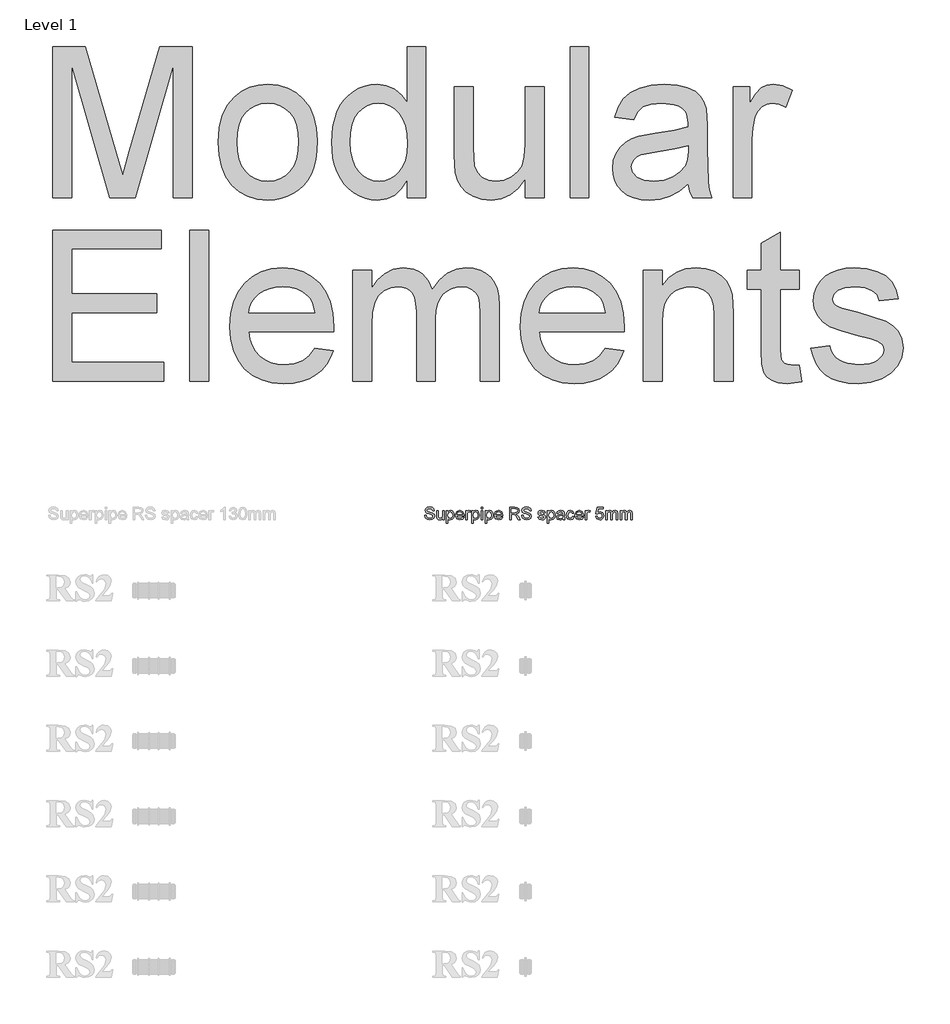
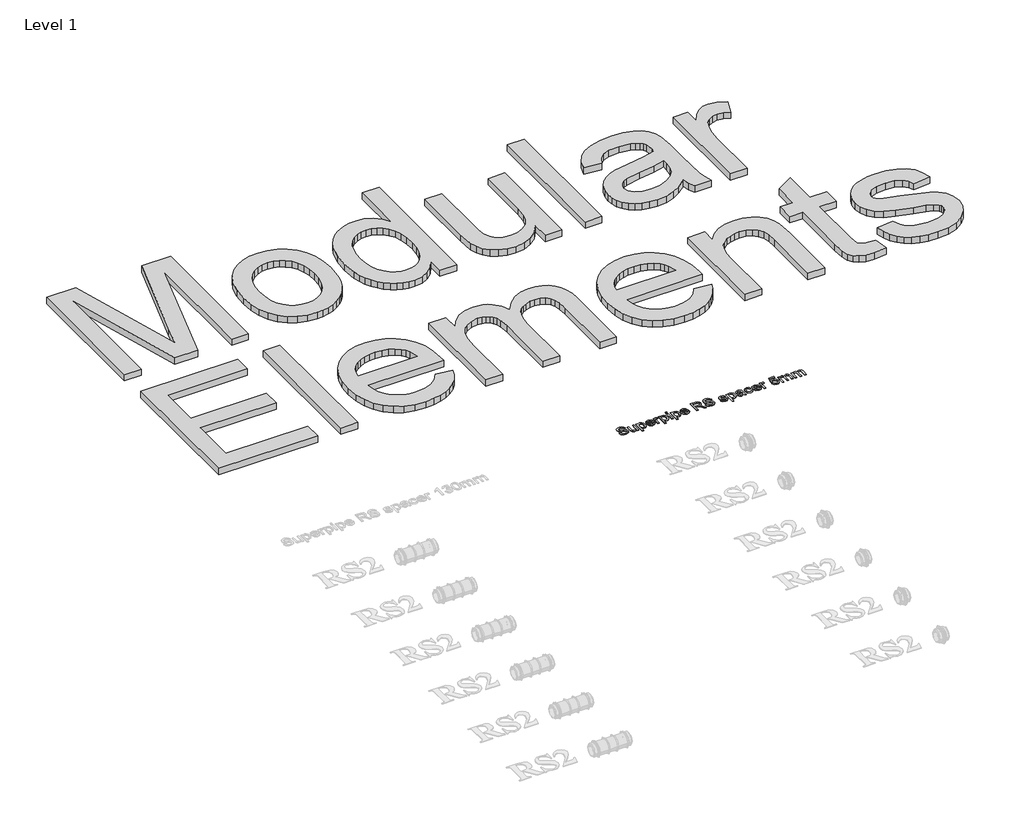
# One storey, part 52 of 57: 2 proxies.
"""IFC4 building model written with IfcOpenShell, lengths in millimetres."""

import ifcopenshell
import ifcopenshell.guid

model = None  # the IFC model being written
_history = None  # IfcOwnerHistory: only IFC2X3 demands one
_inside = {}  # id of a spatial element -> (the spatial element, [elements in it])
_under = {}  # id of a project, library or spatial element -> (it, [spatial elements below it])
_declared = {}  # id of a project -> (the project, [libraries it declares])
_typed = {}  # id of a type object -> (the type object, [elements of that type])
_made_of = {}  # id of a material, layer set ... -> (it, [elements and type objects made of it])


def new_model(schema):
    """Start an empty IFC model of exactly this schema.

    Asked for "IFC4X3", IfcOpenShell would pick the latest addendum, in which some entities
    have other attributes; the version numbers below select the first issue.
    IFC2X3 requires an IfcOwnerHistory on every rooted entity: one is made here for all.
    """
    global model, _history
    if schema == "IFC4X3":
        model = ifcopenshell.file(schema_version=(4, 3, 0, 0))
    else:
        model = ifcopenshell.file(schema=schema)
    _inside.clear()
    _under.clear()
    _declared.clear()
    _typed.clear()
    _made_of.clear()
    _history = None
    if model.schema == "IFC2X3":
        org = make("IfcOrganization", Name="unknown")
        user = make(
            "IfcPersonAndOrganization",
            ThePerson=make("IfcPerson", FamilyName="unknown"),
            TheOrganization=org,
        )
        app = make(
            "IfcApplication",
            ApplicationDeveloper=org,
            Version="unknown",
            ApplicationFullName="unknown",
            ApplicationIdentifier="unknown",
        )
        _history = make(
            "IfcOwnerHistory",
            OwningUser=user,
            OwningApplication=app,
            ChangeAction="ADDED",
            CreationDate=0,
        )
    return model


def make(cls, **values):
    """One entity of the class cls with the attributes given. An attribute that is None is left unset."""
    return model.create_entity(
        cls, **{name: value for name, value in values.items() if value is not None}
    )


def rooted(cls, **values):
    """An entity with a GlobalId (a new one), such as an element, a storey or a relation."""
    return make(cls, GlobalId=ifcopenshell.guid.new(), OwnerHistory=_history, **values)


def si_unit(unit_type, name, prefix=None):
    """IfcSIUnit, for example si_unit("LENGTHUNIT", "METRE", prefix="MILLI")."""
    return make("IfcSIUnit", UnitType=unit_type, Prefix=prefix, Name=name)


def assignment(units):
    """IfcUnitAssignment: the units of a project."""
    return None if units is None else make("IfcUnitAssignment", Units=units)


def point(xyz):
    """IfcCartesianPoint."""
    return None if xyz is None else make("IfcCartesianPoint", Coordinates=xyz)


def direction(xyz):
    """IfcDirection."""
    return None if xyz is None else make("IfcDirection", DirectionRatios=xyz)


def frame(location, z_axis=None, x_axis=None):
    """IfcAxis2Placement3D, a coordinate frame: its origin and axes. An axis left out is left unset."""
    return make(
        "IfcAxis2Placement3D",
        Location=point(location),
        Axis=direction(z_axis),
        RefDirection=direction(x_axis),
    )


def origin():
    """The frame at (0, 0, 0) with its axes left unset."""
    return frame((0.0, 0.0, 0.0))


def place(relative_to, where):
    """IfcLocalPlacement: puts the frame where relative to a parent placement (None: the world)."""
    return make(
        "IfcLocalPlacement", PlacementRelTo=relative_to, RelativePlacement=where
    )


def context(
    kind, dimensions, precision=None, world=None, true_north=None, identifier=None
):
    """IfcGeometricRepresentationContext, for example the 3D "Model" context."""
    return make(
        "IfcGeometricRepresentationContext",
        ContextIdentifier=identifier,
        ContextType=kind,
        CoordinateSpaceDimension=dimensions,
        Precision=precision,
        WorldCoordinateSystem=world,
        TrueNorth=true_north,
    )


def project(units=None, contexts=None):
    """IfcProject with its units and contexts."""
    return rooted(
        "IfcProject",
        Name="project",
        RepresentationContexts=contexts,
        UnitsInContext=assignment(units),
    )


def spatial(cls, under=None, at=None, **own):
    """A site, building, storey or space (cls), placed at a placement, below another one or the project."""
    s = rooted(cls, ObjectPlacement=at, **own)
    if under is not None:
        _under.setdefault(under.id(), (under, []))[1].append(s)
    return s


def polyline(points):
    """IfcPolyline through the points."""
    return make("IfcPolyline", Points=[point(p) for p in points])


def outline(outer, holes=None, kind="AREA"):
    """IfcArbitraryClosedProfileDef: a profile drawn as a closed curve; with holes, ...WithVoids."""
    if holes is None:
        return make("IfcArbitraryClosedProfileDef", ProfileType=kind, OuterCurve=outer)
    return make(
        "IfcArbitraryProfileDefWithVoids",
        ProfileType=kind,
        OuterCurve=outer,
        InnerCurves=holes,
    )


def extrude(swept, where, along, depth):
    """IfcExtrudedAreaSolid: the profile swept, set in the frame where, extruded along a direction by depth."""
    return make(
        "IfcExtrudedAreaSolid",
        SweptArea=swept,
        Position=where,
        ExtrudedDirection=direction(along),
        Depth=depth,
    )


def shape(context_of_items, identifier, shape_type, items):
    """IfcShapeRepresentation: the items that make up one representation, for example the "Body"."""
    return make(
        "IfcShapeRepresentation",
        ContextOfItems=context_of_items,
        RepresentationIdentifier=identifier,
        RepresentationType=shape_type,
        Items=items,
    )


def made_of(thing, what):
    """Note that an element or type object is made of a material, layer set ...; save() writes the relation."""
    if what is not None:
        _made_of.setdefault(what.id(), (what, []))[1].append(thing)
    return thing


def element(
    cls,
    number,
    at=None,
    inside=None,
    cuts=None,
    type_object=None,
    material=None,
    context=None,
    identifier="Body",
    shape_type=None,
    held_by="IfcProductDefinitionShape",
    body=None,
    shapes=None,
    **own,
):
    """One element of the class cls, such as IfcWall. Its Tag is "e" and its number.

    at: its placement. inside: the storey or other place that contains it. cuts: it is an
    opening in that element (IfcRelVoidsElement). A single representation is given by context,
    identifier, shape_type and body (its items); several are given by shapes. held_by: the class
    of the entity that holds the representations. save() writes the other relations.
    """
    e = rooted(cls, Tag="e%d" % number, ObjectPlacement=at, **own)
    if body is not None:
        shapes = [shape(context, identifier, shape_type, body)]
    if shapes is not None:
        e.Representation = make(held_by, Representations=shapes)
    if inside is not None:
        _inside.setdefault(inside.id(), (inside, []))[1].append(e)
    if cuts is not None:
        rooted(
            "IfcRelVoidsElement", RelatingBuildingElement=cuts, RelatedOpeningElement=e
        )
    if type_object is not None:
        _typed.setdefault(type_object.id(), (type_object, []))[1].append(e)
    return made_of(e, material)


def aggregate(whole, parts):
    """IfcRelAggregates: a whole, such as a stair, and the parts it consists of."""
    return rooted("IfcRelAggregates", RelatingObject=whole, RelatedObjects=parts)


def save(model, path):
    """Write the relations noted so far, then the file.

    IfcRelAggregates (storeys below a building ...), IfcRelContainedInSpatialStructure (elements
    in a storey), IfcRelDefinesByType, IfcRelAssociatesMaterial and IfcRelDeclares: one each for
    every whole, place, type object, material and project.
    """
    for whole, parts in _under.values():
        aggregate(whole, parts)
    for where, things in _inside.values():
        rooted(
            "IfcRelContainedInSpatialStructure",
            RelatedElements=things,
            RelatingStructure=where,
        )
    for kind, things in _typed.values():
        rooted("IfcRelDefinesByType", RelatedObjects=things, RelatingType=kind)
    for what, things in _made_of.values():
        rooted("IfcRelAssociatesMaterial", RelatedObjects=things, RelatingMaterial=what)
    for by, libraries in _declared.values():
        rooted("IfcRelDeclares", RelatingContext=by, RelatedDefinitions=libraries)
    model.write(path)


model = new_model("IFC4")

# Units and contexts
model_context = context("Model", 3, world=origin())
ifc_project = project(units=[si_unit("LENGTHUNIT", "METRE", prefix="MILLI")], contexts=[model_context])

# Site, building, storey
site = spatial("IfcSite", under=ifc_project)
building = spatial("IfcBuilding", under=site)
storey = spatial("IfcBuildingStorey", under=building, Name="Level 1", Elevation=27.3876384)

# Proxies
placement = place(None, origin())
element("IfcBuildingElementProxy", 1, Name="50mm Arial", ObjectType="50mm Arial", at=placement, inside=storey, context=model_context, shape_type="SweptSolid", body=[
    extrude(outline(polyline([(42329.6871322, 18946.7630144), (42335.9656516, 18946.7630144), (42337.9890026, 18940.4783637), (42342.930884, 18936.5052381), (42350.4602022, 18934.9907906), (42357.0207645, 18936.1373562), (42361.2575388, 18939.2888786), (42362.649359, 18943.5011274), (42361.6070267, 18947.4190707), (42357.3395955, 18950.2701561), (42348.1977279, 18952.6675205), (42338.3568846, 18955.7638606), (42333.0164643, 18960.4359619), (42331.2567621, 18966.6776931), (42333.4333972, 18973.783947), (42339.7916244, 18978.7994049), (42349.0990388, 18980.5100561), (42359.0318527, 18978.7196971), (42365.6537286, 18973.4589846), (42368.1430635, 18965.5985726), (42361.8645441, 18965.5985726), (42358.3083514, 18972.0487702), (42349.3442935, 18974.2315368), (42340.3557101, 18972.0732957), (42337.5352815, 18966.8616341), (42339.534107, 18962.5083638), (42349.7857519, 18959.0012222), (42360.8957881, 18955.8496997), (42366.9719724, 18950.7606655), (42368.9278784, 18943.660543), (42366.6776668, 18936.1496189), (42360.2029437, 18930.6681772), (42350.7054569, 18928.7122712), (42339.4911874, 18930.8214613), (42332.3971963, 18937.1735571), (42329.6871322, 18946.7630144)])), frame((0.0, 0.0, 27.3876384), z_axis=(0.0, 0.0, 1.0), x_axis=(1.0, 0.0, 0.0)), (0.0, 0.0, 1.0), 2.0),
    extrude(outline(polyline([(42401.1052902, 18929.4970861), (42401.1052902, 18935.8369192), (42396.1879342, 18930.4934332), (42389.7745248, 18928.7122712), (42383.8700187, 18929.96307), (42379.7987913, 18933.1023297), (42377.9287245, 18937.7253801), (42377.5608425, 18943.5624411), (42377.5608425, 18966.3833875), (42383.8393619, 18966.3833875), (42383.8393619, 18946.5177598), (42384.2195066, 18940.1166131), (42386.7027101, 18936.3580853), (42391.3809428, 18934.9907906), (42396.6232612, 18936.3887422), (42400.0874834, 18940.1963208), (42401.1052902, 18947.1922101), (42401.1052902, 18966.3833875), (42407.3838096, 18966.3833875), (42407.3838096, 18929.4970861), (42401.1052902, 18929.4970861)])), frame((0.0, 0.0, 27.3876384), z_axis=(0.0, 0.0, 1.0), x_axis=(1.0, 0.0, 0.0)), (0.0, 0.0, 1.0), 2.0),
    extrude(outline(polyline([(42416.0167738, 18915.3704175), (42416.0167738, 18966.3833875), (42422.2952931, 18966.3833875), (42422.2952931, 18960.2274955), (42426.6363007, 18965.4330257), (42432.4978871, 18967.1682024), (42440.456401, 18964.7401813), (42445.6557998, 18957.8975762), (42447.4093707, 18948.2222797), (42445.4289393, 18938.0503425), (42439.6777174, 18931.1218983), (42431.7375977, 18928.7122712), (42426.2745501, 18930.3248206), (42422.2952931, 18934.4021794), (42422.2952931, 18915.3704175), (42416.0167738, 18915.3704175)]), holes=[polyline([(42422.2952931, 18947.6459312), (42425.0114885, 18938.0809994), (42431.6027076, 18934.9907906), (42438.3288168, 18938.191364), (42441.1308513, 18948.1119151), (42438.3962618, 18957.7013724), (42431.860225, 18960.8896831), (42425.1954295, 18957.4990373), (42422.2952931, 18947.6459312)])]), frame((0.0, 0.0, 27.3876384), z_axis=(0.0, 0.0, 1.0), x_axis=(1.0, 0.0, 0.0)), (0.0, 0.0, 1.0), 2.0),
    extrude(outline(polyline([(42480.298021, 18940.4844951), (42486.4539131, 18939.6996801), (42480.6965599, 18931.5940135), (42469.9727997, 18928.7122712), (42456.9375144, 18933.6848095), (42452.1182602, 18947.6336685), (42456.9865653, 18962.04238), (42469.6171805, 18967.1682024), (42481.886045, 18962.0546427), (42486.6501168, 18947.6704567), (42486.6133286, 18945.9781995), (42458.3967796, 18945.9781995), (42462.0081545, 18937.823482), (42470.095427, 18934.9907906), (42476.2513191, 18936.3029031), (42480.298021, 18940.4844951)]), holes=[polyline([(42458.3967796, 18952.2567189), (42480.3715974, 18952.2567189), (42477.8577371, 18957.9466271), (42469.592655, 18960.8896831), (42461.8610017, 18958.5413697), (42458.3967796, 18952.2567189)])]), frame((0.0, 0.0, 27.3876384), z_axis=(0.0, 0.0, 1.0), x_axis=(1.0, 0.0, 0.0)), (0.0, 0.0, 1.0), 2.0),
    extrude(outline(polyline([(42492.9286362, 18929.4970861), (42492.9286362, 18966.3833875), (42498.4223407, 18966.3833875), (42498.4223407, 18960.9264713), (42502.3218898, 18965.9541919), (42506.2459644, 18967.1682024), (42512.5490093, 18965.2306906), (42510.4520819, 18959.6020961), (42506.037498, 18960.8896831), (42502.4874367, 18959.651147), (42500.2249625, 18956.2175817), (42499.2071556, 18948.8844673), (42499.2071556, 18929.4970861), (42492.9286362, 18929.4970861)])), frame((0.0, 0.0, 27.3876384), z_axis=(0.0, 0.0, 1.0), x_axis=(1.0, 0.0, 0.0)), (0.0, 0.0, 1.0), 2.0),
    extrude(outline(polyline([(42516.4730839, 18915.3704175), (42516.4730839, 18966.3833875), (42522.7516033, 18966.3833875), (42522.7516033, 18960.2274955), (42527.0926108, 18965.4330257), (42532.9541973, 18967.1682024), (42540.9127111, 18964.7401813), (42546.11211, 18957.8975762), (42547.8656808, 18948.2222797), (42545.8852494, 18938.0503425), (42540.1340276, 18931.1218983), (42532.1939078, 18928.7122712), (42526.7308602, 18930.3248206), (42522.7516033, 18934.4021794), (42522.7516033, 18915.3704175), (42516.4730839, 18915.3704175)]), holes=[polyline([(42522.7516033, 18947.6459312), (42525.4677987, 18938.0809994), (42532.0590178, 18934.9907906), (42538.7851269, 18938.191364), (42541.5871614, 18948.1119151), (42538.8525719, 18957.7013724), (42532.3165352, 18960.8896831), (42525.6517397, 18957.4990373), (42522.7516033, 18947.6459312)])]), frame((0.0, 0.0, 27.3876384), z_axis=(0.0, 0.0, 1.0), x_axis=(1.0, 0.0, 0.0)), (0.0, 0.0, 1.0), 2.0),
    extrude(outline(polyline([(42554.9290151, 18929.4970861), (42554.9290151, 18966.3833875), (42561.2075345, 18966.3833875), (42561.2075345, 18929.4970861), (42554.9290151, 18929.4970861)])), frame((0.0, 0.0, 27.3876384), z_axis=(0.0, 0.0, 1.0), x_axis=(1.0, 0.0, 0.0)), (0.0, 0.0, 1.0), 2.0),
    extrude(outline(polyline([(42554.9290151, 18973.4467218), (42554.9290151, 18979.7252412), (42561.2075345, 18979.7252412), (42561.2075345, 18973.4467218), (42554.9290151, 18973.4467218)])), frame((0.0, 0.0, 27.3876384), z_axis=(0.0, 0.0, 1.0), x_axis=(1.0, 0.0, 0.0)), (0.0, 0.0, 1.0), 2.0),
    extrude(outline(polyline([(42570.6253136, 18915.3704175), (42570.6253136, 18966.3833875), (42576.903833, 18966.3833875), (42576.903833, 18960.2274955), (42581.2448405, 18965.4330257), (42587.106427, 18967.1682024), (42595.0649408, 18964.7401813), (42600.2643397, 18957.8975762), (42602.0179105, 18948.2222797), (42600.0374791, 18938.0503425), (42594.2862573, 18931.1218983), (42586.3461375, 18928.7122712), (42580.8830899, 18930.3248206), (42576.903833, 18934.4021794), (42576.903833, 18915.3704175), (42570.6253136, 18915.3704175)]), holes=[polyline([(42576.903833, 18947.6459312), (42579.6200284, 18938.0809994), (42586.2112475, 18934.9907906), (42592.9373566, 18938.191364), (42595.7393911, 18948.1119151), (42593.0048016, 18957.7013724), (42586.4687649, 18960.8896831), (42579.8039694, 18957.4990373), (42576.903833, 18947.6459312)])]), frame((0.0, 0.0, 27.3876384), z_axis=(0.0, 0.0, 1.0), x_axis=(1.0, 0.0, 0.0)), (0.0, 0.0, 1.0), 2.0),
    extrude(outline(polyline([(42634.9065609, 18940.4844951), (42641.0624529, 18939.6996801), (42635.3050997, 18931.5940135), (42624.5813396, 18928.7122712), (42611.5460542, 18933.6848095), (42606.7268001, 18947.6336685), (42611.5951051, 18962.04238), (42624.2257203, 18967.1682024), (42636.4945848, 18962.0546427), (42641.2586567, 18947.6704567), (42641.2218685, 18945.9781995), (42613.0053194, 18945.9781995), (42616.6166944, 18937.823482), (42624.7039669, 18934.9907906), (42630.8598589, 18936.3029031), (42634.9065609, 18940.4844951)]), holes=[polyline([(42613.0053194, 18952.2567189), (42634.9801373, 18952.2567189), (42632.466277, 18957.9466271), (42624.2011948, 18960.8896831), (42616.4695416, 18958.5413697), (42613.0053194, 18952.2567189)])]), frame((0.0, 0.0, 27.3876384), z_axis=(0.0, 0.0, 1.0), x_axis=(1.0, 0.0, 0.0)), (0.0, 0.0, 1.0), 2.0),
    extrude(outline(polyline([(42667.9423641, 18929.4970861), (42667.9423641, 18979.7252412), (42689.5860881, 18979.7252412), (42699.6353979, 18978.3702092), (42705.1291024, 18973.5754805), (42707.1831102, 18965.9787173), (42703.7802018, 18956.9288202), (42693.2649081, 18952.2567189), (42696.8333634, 18949.5711803), (42701.9223977, 18943.10872), (42710.2978444, 18929.4970861), (42703.0015182, 18929.4970861), (42696.4654814, 18939.9081466), (42691.7443291, 18946.7998026), (42688.4272598, 18950.0555583), (42685.4412843, 18951.2511748), (42681.7992525, 18951.471904), (42674.2208834, 18951.471904), (42674.2208834, 18929.4970861), (42667.9423641, 18929.4970861)]), holes=[polyline([(42674.2208834, 18957.7504234), (42688.2739757, 18957.7504234), (42695.4415432, 18958.6394715), (42699.5127706, 18961.4844256), (42700.9045908, 18965.7457254), (42698.2497091, 18971.2762181), (42689.8558682, 18973.4467218), (42674.2208834, 18973.4467218), (42674.2208834, 18957.7504234)])]), frame((0.0, 0.0, 27.3876384), z_axis=(0.0, 0.0, 1.0), x_axis=(1.0, 0.0, 0.0)), (0.0, 0.0, 1.0), 2.0),
    extrude(outline(polyline([(42715.8160744, 18946.7630144), (42722.0945937, 18946.7630144), (42724.1179447, 18940.4783637), (42729.0598262, 18936.5052381), (42736.5891444, 18934.9907906), (42743.1497066, 18936.1373562), (42747.3864809, 18939.2888786), (42748.7783011, 18943.5011274), (42747.7359688, 18947.4190707), (42743.4685377, 18950.2701561), (42734.3266701, 18952.6675205), (42724.4858267, 18955.7638606), (42719.1454064, 18960.4359619), (42717.3857042, 18966.6776931), (42719.5623393, 18973.783947), (42725.9205665, 18978.7994049), (42735.227981, 18980.5100561), (42745.1607948, 18978.7196971), (42751.7826708, 18973.4589846), (42754.2720056, 18965.5985726), (42747.9934862, 18965.5985726), (42744.4372936, 18972.0487702), (42735.4732356, 18974.2315368), (42726.4846522, 18972.0732957), (42723.6642236, 18966.8616341), (42725.6630491, 18962.5083638), (42735.914694, 18959.0012222), (42747.0247303, 18955.8496997), (42753.1009146, 18950.7606655), (42755.0568205, 18943.660543), (42752.806609, 18936.1496189), (42746.3318859, 18930.6681772), (42736.834399, 18928.7122712), (42725.6201295, 18930.8214613), (42718.5261384, 18937.1735571), (42715.8160744, 18946.7630144)])), frame((0.0, 0.0, 27.3876384), z_axis=(0.0, 0.0, 1.0), x_axis=(1.0, 0.0, 0.0)), (0.0, 0.0, 1.0), 2.0),
    extrude(outline(polyline([(42780.955713, 18940.4844951), (42787.2342324, 18941.26931), (42790.1405001, 18936.6094714), (42796.7991642, 18934.9907906), (42803.2003109, 18936.4745813), (42805.2849756, 18939.9571975), (42803.1880482, 18942.7776262), (42796.7255878, 18944.5679852), (42787.2710206, 18947.6397999), (42783.1446108, 18951.2266493), (42781.7405279, 18956.2911581), (42782.8686993, 18960.9693908), (42785.9466454, 18964.5439775), (42789.938165, 18966.4017816), (42795.339899, 18967.1682024), (42802.9795818, 18965.9357978), (42807.8356241, 18962.6003343), (42809.9938651, 18956.9656084), (42803.7153457, 18956.1807935), (42801.3547696, 18959.6450156), (42795.8304083, 18960.8896831), (42789.8216691, 18959.7001979), (42788.0190473, 18956.9288202), (42788.767074, 18955.101673), (42791.109256, 18953.7159842), (42796.5171214, 18952.3793462), (42805.7325653, 18949.4240275), (42810.0122592, 18946.0763014), (42811.563495, 18940.6193851), (42809.7424791, 18934.6106459), (42804.4878979, 18930.2512442), (42796.7133251, 18928.7122712), (42785.7627044, 18931.6798526), (42780.955713, 18940.4844951)])), frame((0.0, 0.0, 27.3876384), z_axis=(0.0, 0.0, 1.0), x_axis=(1.0, 0.0, 0.0)), (0.0, 0.0, 1.0), 2.0),
    extrude(outline(polyline([(42818.6268293, 18915.3704175), (42818.6268293, 18966.3833875), (42824.9053487, 18966.3833875), (42824.9053487, 18960.2274955), (42829.2463562, 18965.4330257), (42835.1079427, 18967.1682024), (42843.0664565, 18964.7401813), (42848.2658554, 18957.8975762), (42850.0194262, 18948.2222797), (42848.0389948, 18938.0503425), (42842.2877729, 18931.1218983), (42834.3476532, 18928.7122712), (42828.8846056, 18930.3248206), (42824.9053487, 18934.4021794), (42824.9053487, 18915.3704175), (42818.6268293, 18915.3704175)]), holes=[polyline([(42824.9053487, 18947.6459312), (42827.6215441, 18938.0809994), (42834.2127631, 18934.9907906), (42840.9388723, 18938.191364), (42843.7409068, 18948.1119151), (42841.0063173, 18957.7013724), (42834.4702805, 18960.8896831), (42827.8054851, 18957.4990373), (42824.9053487, 18947.6459312)])]), frame((0.0, 0.0, 27.3876384), z_axis=(0.0, 0.0, 1.0), x_axis=(1.0, 0.0, 0.0)), (0.0, 0.0, 1.0), 2.0),
    extrude(outline(polyline([(42880.6272082, 18934.2059757), (42874.5387612, 18929.9508073), (42867.812652, 18928.7122712), (42858.6953099, 18931.6921154), (42855.5131307, 18939.3072727), (42856.7148785, 18944.2736796), (42859.8725323, 18947.8789232), (42864.2687221, 18949.9390623), (42869.7011129, 18950.8832928), (42880.59042, 18953.0415338), (42878.8981628, 18959.0747986), (42871.9574558, 18960.8896831), (42865.6053601, 18959.6818038), (42862.576465, 18955.3959786), (42856.2979456, 18956.1807935), (42859.014141, 18962.3121601), (42864.48332, 18965.9051409), (42872.7667962, 18967.1682024), (42880.3758222, 18966.0522937), (42884.6739101, 18963.2502592), (42886.5991593, 18958.9889594), (42886.9057276, 18953.495255), (42886.9057276, 18945.6838939), (42887.2245586, 18934.7761928), (42888.4753574, 18929.4970861), (42882.196838, 18929.4970861), (42880.6272082, 18934.2059757)]), holes=[polyline([(42880.6272082, 18946.7630144), (42870.4981906, 18944.8377653), (42865.0964566, 18943.8199585), (42862.6500414, 18942.1644895), (42861.79165, 18939.7487311), (42863.6617169, 18936.351954), (42869.1492899, 18934.9907906), (42875.5013857, 18936.4929754), (42879.5971386, 18940.1288758), (42880.59042, 18944.9849181), (42880.6272082, 18946.7630144)])]), frame((0.0, 0.0, 27.3876384), z_axis=(0.0, 0.0, 1.0), x_axis=(1.0, 0.0, 0.0)), (0.0, 0.0, 1.0), 2.0),
    extrude(outline(polyline([(42919.0831394, 18942.8389398), (42925.3616588, 18942.0541249), (42920.3216755, 18932.2500697), (42910.3643361, 18928.7122712), (42898.4633536, 18933.6480213), (42893.9690619, 18947.8053468), (42895.8881796, 18958.2348013), (42901.7375034, 18964.936385), (42910.278497, 18967.1682024), (42919.8250348, 18964.1025192), (42924.5768439, 18955.3959786), (42918.2983245, 18954.6111637), (42915.3859254, 18959.3139218), (42910.3275479, 18960.8896831), (42903.0496158, 18957.7872116), (42900.2475813, 18947.977025), (42902.9883021, 18938.074868), (42910.1558697, 18934.9907906), (42916.0726384, 18936.9160397), (42919.0831394, 18942.8389398)])), frame((0.0, 0.0, 27.3876384), z_axis=(0.0, 0.0, 1.0), x_axis=(1.0, 0.0, 0.0)), (0.0, 0.0, 1.0), 2.0),
    extrude(outline(polyline([(42956.6806793, 18940.4844951), (42962.8365714, 18939.6996801), (42957.0792182, 18931.5940135), (42946.355458, 18928.7122712), (42933.3201726, 18933.6848095), (42928.5009185, 18947.6336685), (42933.3692236, 18962.04238), (42945.9998387, 18967.1682024), (42958.2687033, 18962.0546427), (42963.0327751, 18947.6704567), (42962.9959869, 18945.9781995), (42934.7794379, 18945.9781995), (42938.3908128, 18937.823482), (42946.4780853, 18934.9907906), (42952.6339774, 18936.3029031), (42956.6806793, 18940.4844951)]), holes=[polyline([(42934.7794379, 18952.2567189), (42956.7542557, 18952.2567189), (42954.2403954, 18957.9466271), (42945.9753133, 18960.8896831), (42938.24366, 18958.5413697), (42934.7794379, 18952.2567189)])]), frame((0.0, 0.0, 27.3876384), z_axis=(0.0, 0.0, 1.0), x_axis=(1.0, 0.0, 0.0)), (0.0, 0.0, 1.0), 2.0),
    extrude(outline(polyline([(42969.3112945, 18929.4970861), (42969.3112945, 18966.3833875), (42974.804999, 18966.3833875), (42974.804999, 18960.9264713), (42978.7045481, 18965.9541919), (42982.6286227, 18967.1682024), (42988.9316676, 18965.2306906), (42986.8347402, 18959.6020961), (42982.4201563, 18960.8896831), (42978.870095, 18959.651147), (42976.6076207, 18956.2175817), (42975.5898139, 18948.8844673), (42975.5898139, 18929.4970861), (42969.3112945, 18929.4970861)])), frame((0.0, 0.0, 27.3876384), z_axis=(0.0, 0.0, 1.0), x_axis=(1.0, 0.0, 0.0)), (0.0, 0.0, 1.0), 2.0),
    extrude(outline(polyline([(43010.9064854, 18942.8389398), (43017.1850048, 18943.6237548), (43020.34879, 18937.155163), (43026.9093522, 18934.9907906), (43034.7820269, 18938.0012916), (43037.5901928, 18945.9904623), (43034.9598365, 18953.446204), (43027.0074541, 18956.1807935), (43021.4953555, 18955.0894103), (43017.9698197, 18952.2567189), (43011.6913003, 18953.0415338), (43017.1850048, 18978.9404263), (43041.5142674, 18978.9404263), (43041.5142674, 18972.6619069), (43022.2617763, 18972.6619069), (43019.5762378, 18958.8295439), (43028.7610249, 18962.4593129), (43039.4970478, 18957.9588898), (43043.8687122, 18946.3828697), (43039.9323748, 18934.7332732), (43034.2792549, 18930.2175217), (43026.8848267, 18928.7122712), (43015.8054473, 18932.5811635), (43010.9064854, 18942.8389398)])), frame((0.0, 0.0, 27.3876384), z_axis=(0.0, 0.0, 1.0), x_axis=(1.0, 0.0, 0.0)), (0.0, 0.0, 1.0), 2.0),
    extrude(outline(polyline([(43050.9320465, 18929.4970861), (43050.9320465, 18966.3833875), (43057.2105659, 18966.3833875), (43057.2105659, 18960.3133346), (43061.527048, 18965.2858729), (43067.6706773, 18967.1682024), (43073.9614594, 18965.2490847), (43077.4195502, 18959.8718762), (43082.3185121, 18965.3441209), (43088.5050609, 18967.1682024), (43096.7149608, 18964.133176), (43099.5905717, 18954.7828419), (43099.5905717, 18929.4970861), (43093.3120523, 18929.4970861), (43093.3120523, 18952.0850406), (43092.7295725, 18957.3273591), (43090.6203824, 18959.9086644), (43087.033533, 18960.8896831), (43080.8592468, 18958.3758228), (43078.4005688, 18950.3192071), (43078.4005688, 18929.4970861), (43072.1220494, 18929.4970861), (43072.1220494, 18952.7840164), (43070.6689155, 18958.8663321), (43065.9048437, 18960.8896831), (43061.2572678, 18959.5407824), (43058.1670591, 18955.5921823), (43057.2105659, 18948.0996524), (43057.2105659, 18929.4970861), (43050.9320465, 18929.4970861)])), frame((0.0, 0.0, 27.3876384), z_axis=(0.0, 0.0, 1.0), x_axis=(1.0, 0.0, 0.0)), (0.0, 0.0, 1.0), 2.0),
    extrude(outline(polyline([(43109.0083508, 18929.4970861), (43109.0083508, 18966.3833875), (43115.2868702, 18966.3833875), (43115.2868702, 18960.3133346), (43119.6033523, 18965.2858729), (43125.7469816, 18967.1682024), (43132.0377637, 18965.2490847), (43135.4958545, 18959.8718762), (43140.3948164, 18965.3441209), (43146.5813652, 18967.1682024), (43154.7912651, 18964.133176), (43157.666876, 18954.7828419), (43157.666876, 18929.4970861), (43151.3883566, 18929.4970861), (43151.3883566, 18952.0850406), (43150.8058768, 18957.3273591), (43148.6966867, 18959.9086644), (43145.1098373, 18960.8896831), (43138.9355511, 18958.3758228), (43136.4768731, 18950.3192071), (43136.4768731, 18929.4970861), (43130.1983537, 18929.4970861), (43130.1983537, 18952.7840164), (43128.7452198, 18958.8663321), (43123.981148, 18960.8896831), (43119.3335721, 18959.5407824), (43116.2433634, 18955.5921823), (43115.2868702, 18948.0996524), (43115.2868702, 18929.4970861), (43109.0083508, 18929.4970861)])), frame((0.0, 0.0, 27.3876384), z_axis=(0.0, 0.0, 1.0), x_axis=(1.0, 0.0, 0.0)), (0.0, 0.0, 1.0), 2.0),
])
element("IfcBuildingElementProxy", 2, Name="600mm Arial", ObjectType="600mm Arial", at=placement, inside=storey, context=model_context, shape_type="SweptSolid", body=[
    extrude(outline(polyline([(40846.7427908, 20213.7679008), (40846.7427908, 20816.5057617), (40976.3844059, 20816.5057617), (41099.6984507, 20391.6756337), (41124.5672735, 20302.9424964), (41151.4962356, 20399.0332736), (41272.7501412, 20816.5057617), (41402.3917563, 20816.5057617), (41402.3917563, 20213.7679008), (41327.0495237, 20213.7679008), (41327.0495237, 20741.1635291), (41175.6292945, 20213.7679008), (41073.5052526, 20213.7679008), (40922.0850234, 20741.1635291), (40922.0850234, 20213.7679008), (40846.7427908, 20213.7679008)])), frame((0.0, 0.0, 27.3876384), z_axis=(0.0, 0.0, 1.0), x_axis=(1.0, 0.0, 0.0)), (0.0, 0.0, 1.0), 30.0),
    extrude(outline(polyline([(41505.9873261, 20435.0857091), (41510.0616192, 20492.410921), (41522.2844985, 20541.8082759), (41542.655964, 20583.2777738), (41571.1760157, 20616.8194147), (41599.8892054, 20638.257738), (41631.5822393, 20653.570826), (41666.2551173, 20662.7586789), (41703.9078395, 20665.8212965), (41745.4739065, 20662.0918928), (41783.0576508, 20650.9036816), (41816.6590725, 20632.2566629), (41846.2781717, 20606.1508369), (41870.4526173, 20573.4691201), (41887.7200784, 20535.0944295), (41898.0805551, 20491.026765), (41901.5340474, 20441.2661266), (41900.0073371, 20400.9370629), (41895.4272062, 20365.1513418), (41887.7936548, 20333.9089634), (41877.1066829, 20307.2099276), (41863.4996476, 20284.148325), (41847.1059062, 20263.8182462), (41827.9254586, 20246.2196913), (41805.958305, 20231.3526602), (41782.0597709, 20219.5390496), (41757.085182, 20211.1007563), (41731.0345382, 20206.0377804), (41703.9078395, 20204.3501217), (41661.7347673, 20208.0657299), (41623.8015351, 20219.2125543), (41590.1081429, 20237.7905951), (41560.6545906, 20263.7998521), (41536.7376624, 20296.7988671), (41519.6541423, 20336.3461816), (41509.4040302, 20382.4417956), (41505.9873261, 20435.0857091)]), holes=[polyline([(41581.3295588, 20435.2328619), (41583.5092596, 20398.6883842), (41590.048362, 20367.0459341), (41600.9468661, 20340.3055116), (41616.2047719, 20318.4671166), (41634.7644186, 20301.5031581), (41655.5681454, 20289.3860449), (41678.6159524, 20282.115777), (41703.9078395, 20279.6923543), (41729.070968, 20282.1295726), (41752.0268045, 20289.4412272), (41772.775349, 20301.6273183), (41791.3166016, 20318.6878458), (41806.5745074, 20340.7423714), (41817.4730115, 20367.9104568), (41824.0121139, 20400.1921019), (41826.1918147, 20437.5873067), (41823.9983183, 20472.9729561), (41817.4178292, 20503.7876717), (41806.4503472, 20530.0314535), (41791.0958724, 20551.7043016), (41772.485642, 20568.6682601), (41751.750893, 20580.7853733), (41728.8916255, 20588.0556412), (41703.9078395, 20590.4790639), (41678.6159524, 20588.0648383), (41655.5681454, 20580.8221615), (41634.7644186, 20568.7510335), (41616.2047719, 20551.8514544), (41600.9468661, 20530.0774388), (41590.048362, 20503.3830015), (41583.5092596, 20471.7681425), (41581.3295588, 20435.2328619)])]), frame((0.0, 0.0, 27.3876384), z_axis=(0.0, 0.0, 1.0), x_axis=(1.0, 0.0, 0.0)), (0.0, 0.0, 1.0), 30.0),
    extrude(outline(polyline([(42259.4096523, 20213.7679008), (42259.4096523, 20284.8427023), (42236.867683, 20249.6271983), (42209.5616419, 20224.4732669), (42177.491529, 20209.380908), (42140.6573442, 20204.3501217), (42115.7885213, 20206.1711376), (42091.9497681, 20211.6341852), (42069.1410844, 20220.7392646), (42047.3624702, 20233.4863757), (42027.2945074, 20249.4938411), (42009.6177775, 20268.379983), (41994.3322806, 20290.1448015), (41981.4380167, 20314.7882967), (41971.2017002, 20341.8414189), (41963.8900455, 20370.8351186), (41958.0407218, 20434.6442507), (41963.430193, 20497.6624365), (41979.5986067, 20554.5737811), (41991.7203185, 20579.9300477), (42006.5275688, 20602.1409231), (42024.0203577, 20621.2064075), (42044.1986851, 20637.1265009), (42066.3497797, 20649.6804739), (42089.7608702, 20658.6475976), (42114.4319565, 20664.0278718), (42140.3630386, 20665.8212965), (42177.2248145, 20660.6893426), (42209.8191593, 20645.2934811), (42237.4470972, 20621.6938512), (42259.4096523, 20591.9505918), (42259.4096523, 20816.5057617), (42334.7518849, 20816.5057617), (42334.7518849, 20213.7679008), (42259.4096523, 20213.7679008)]), holes=[polyline([(42033.3829544, 20434.9385563), (42035.5074729, 20398.4032757), (42041.8810285, 20366.7884167), (42052.5036211, 20340.0939794), (42067.3752508, 20318.3199638), (42085.1347541, 20301.4203847), (42104.4209677, 20289.3492567), (42125.2338916, 20282.1065799), (42147.5735257, 20279.6923543), (42170.018926, 20281.9962153), (42190.7076897, 20288.9077983), (42209.6398168, 20300.4271033), (42226.8153075, 20316.5541303), (42241.0753333, 20337.4176379), (42251.2610661, 20363.1463849), (42257.3725057, 20393.7403714), (42259.4096523, 20429.1995972), (42257.3357175, 20468.075527), (42251.1139133, 20501.4148328), (42240.7442395, 20529.2175146), (42226.2266963, 20551.4835724), (42208.6741266, 20568.5440999), (42189.1993735, 20580.730191), (42167.8024369, 20588.0418456), (42144.483317, 20590.4790639), (42121.7022244, 20588.1384147), (42100.8893005, 20581.1164671), (42082.0445453, 20569.4132211), (42065.1679588, 20553.0286768), (42051.2620194, 20531.6041491), (42041.3292055, 20504.7809531), (42035.3695172, 20472.5590888), (42033.3829544, 20434.9385563)])]), frame((0.0, 0.0, 27.3876384), z_axis=(0.0, 0.0, 1.0), x_axis=(1.0, 0.0, 0.0)), (0.0, 0.0, 1.0), 30.0),
    extrude(outline(polyline([(42730.2986061, 20213.7679008), (42730.2986061, 20289.8458974), (42703.0385502, 20252.4414955), (42671.2903341, 20225.7240656), (42635.0539575, 20209.6936077), (42594.3294207, 20204.3501217), (42557.6331917, 20208.1025181), (42523.4753484, 20219.3597071), (42494.817341, 20236.2822789), (42474.6206194, 20257.0308234), (42461.0273797, 20282.2307401), (42452.1798177, 20312.5074283), (42447.7652338, 20382.5521602), (42447.7652338, 20656.4035174), (42523.1074664, 20656.4035174), (42523.1074664, 20418.0159845), (42524.2479006, 20370.338478), (42527.6692031, 20341.2022239), (42538.6504807, 20315.579243), (42557.4676448, 20296.0998913), (42582.8698965, 20283.7942386), (42613.6064372, 20279.6923543), (42646.1088115, 20283.8862091), (42676.5142584, 20296.4677733), (42701.5854164, 20316.2782188), (42718.0849239, 20342.1587171), (42727.2451855, 20377.6041474), (42730.2986061, 20426.1093884), (42730.2986061, 20656.4035174), (42805.6408387, 20656.4035174), (42805.6408387, 20213.7679008), (42730.2986061, 20213.7679008)])), frame((0.0, 0.0, 27.3876384), z_axis=(0.0, 0.0, 1.0), x_axis=(1.0, 0.0, 0.0)), (0.0, 0.0, 1.0), 30.0),
    extrude(outline(polyline([(42909.2364085, 20213.7679008), (42909.2364085, 20816.5057617), (42984.5786412, 20816.5057617), (42984.5786412, 20213.7679008), (42909.2364085, 20213.7679008)])), frame((0.0, 0.0, 27.3876384), z_axis=(0.0, 0.0, 1.0), x_axis=(1.0, 0.0, 0.0)), (0.0, 0.0, 1.0), 30.0),
    extrude(outline(polyline([(43380.1253624, 20270.2745753), (43344.1281091, 20239.4092759), (43307.0639981, 20219.2125543), (43268.0869007, 20208.0657299), (43226.3506884, 20204.3501217), (43192.804449, 20206.5850048), (43163.3876849, 20213.2896542), (43138.1003963, 20224.4640698), (43116.942583, 20240.1082517), (43100.2361419, 20259.2289184), (43088.3029697, 20280.8327885), (43081.1430664, 20304.9198622), (43078.7564319, 20331.4901393), (43082.3616755, 20362.7233207), (43093.1774061, 20391.0870225), (43109.8608546, 20415.3672342), (43131.0692516, 20434.3499451), (43155.9932568, 20448.6973429), (43183.8235297, 20459.0716152), (43249.0122193, 20470.4023806), (43326.0467091, 20482.3217573), (43379.683904, 20496.3012731), (43380.1253624, 20513.0766921), (43374.9382262, 20546.7011064), (43368.4543061, 20559.153912), (43359.3768178, 20568.7004498), (43343.6866507, 20578.2285934), (43324.5751811, 20585.0344103), (43276.0883341, 20590.4790639), (43231.2067307, 20586.8554262), (43199.8631847, 20575.9845133), (43178.4892408, 20555.8797622), (43163.5164436, 20524.5546103), (43088.174211, 20533.9723894), (43101.2524159, 20575.1751729), (43120.7685558, 20607.5487884), (43148.5436464, 20632.3072467), (43186.3987037, 20650.6645583), (43232.6966528, 20662.0321119), (43285.8004188, 20665.8212965), (43336.733681, 20662.4735703), (43377.10873, 20652.4303919), (43407.5509651, 20637.328836), (43428.6857857, 20618.8059775), (43442.7020898, 20595.9053233), (43451.788775, 20567.6703802), (43455.467595, 20501.7459266), (43455.467595, 20408.0095943), (43459.2935677, 20277.1171804), (43464.9589505, 20244.7619589), (43474.3031531, 20213.7679008), (43398.9609205, 20213.7679008), (43386.8943911, 20239.9610989), (43380.1253624, 20270.2745753)]), holes=[polyline([(43380.1253624, 20420.9590405), (43329.5047998, 20408.4142645), (43258.5771512, 20397.8560512), (43193.7563436, 20385.642369), (43176.8889541, 20377.2914477), (43164.3993604, 20365.7767412), (43156.6738385, 20351.9811664), (43154.0986645, 20336.78764), (43159.708865, 20314.3836265), (43176.5394662, 20296.0263149), (43204.2225864, 20283.7758445), (43242.3903434, 20279.6923543), (43282.8573628, 20284.1989088), (43318.6154928, 20297.7185721), (43347.604594, 20317.6393821), (43367.7645273, 20341.3493767), (43376.7040598, 20365.7767412), (43379.683904, 20399.6218848), (43380.1253624, 20420.9590405)])]), frame((0.0, 0.0, 27.3876384), z_axis=(0.0, 0.0, 1.0), x_axis=(1.0, 0.0, 0.0)), (0.0, 0.0, 1.0), 30.0),
    extrude(outline(polyline([(43559.0631648, 20213.7679008), (43559.0631648, 20656.4035174), (43624.9876184, 20656.4035174), (43624.9876184, 20590.9205223), (43649.3414064, 20628.8859442), (43671.7822081, 20651.2531695), (43694.2965863, 20662.1792647), (43718.8711035, 20665.8212965), (43756.395067, 20660.008761), (43794.5076417, 20642.5711544), (43769.3445133, 20575.0280201), (43742.8570096, 20586.6163029), (43716.369506, 20590.4790639), (43693.873522, 20586.7634557), (43673.7687709, 20575.6166313), (43657.5267808, 20557.8847191), (43646.6190797, 20534.4138478), (43637.458818, 20492.3281476), (43634.4053974, 20446.4164746), (43634.4053974, 20213.7679008), (43559.0631648, 20213.7679008)])), frame((0.0, 0.0, 27.3876384), z_axis=(0.0, 0.0, 1.0), x_axis=(1.0, 0.0, 0.0)), (0.0, 0.0, 1.0), 30.0),
    extrude(outline(polyline([(40846.7427908, 19481.9189937), (40846.7427908, 20084.6568546), (41279.9606283, 20084.6568546), (41279.9606283, 20009.314622), (40922.0850234, 20009.314622), (40922.0850234, 19830.3768196), (41261.1250702, 19830.3768196), (41261.1250702, 19755.034587), (40922.0850234, 19755.034587), (40922.0850234, 19557.2612263), (41289.3784074, 19557.2612263), (41289.3784074, 19481.9189937), (40846.7427908, 19481.9189937)])), frame((0.0, 0.0, 27.3876384), z_axis=(0.0, 0.0, 1.0), x_axis=(1.0, 0.0, 0.0)), (0.0, 0.0, 1.0), 30.0),
    extrude(outline(polyline([(41392.9739772, 19481.9189937), (41392.9739772, 20084.6568546), (41468.3162098, 20084.6568546), (41468.3162098, 19481.9189937), (41392.9739772, 19481.9189937)])), frame((0.0, 0.0, 27.3876384), z_axis=(0.0, 0.0, 1.0), x_axis=(1.0, 0.0, 0.0)), (0.0, 0.0, 1.0), 30.0),
    extrude(outline(polyline([(41891.2333515, 19613.7679008), (41965.1040561, 19604.3501217), (41953.7778892, 19574.7632123), (41938.4877938, 19548.6895759), (41919.2337698, 19526.1292125), (41896.0158174, 19507.0821222), (41869.0730598, 19491.9529752), (41838.6446203, 19481.1464415), (41804.7304989, 19474.6625214), (41767.3306955, 19472.5012147), (41720.582091, 19476.2306184), (41678.9286521, 19487.4188296), (41642.3703788, 19506.0658482), (41610.9072712, 19532.1716743), (41585.6061869, 19565.0097409), (41567.5339839, 19603.853481), (41556.6906621, 19648.7028948), (41553.0762215, 19699.5579821), (41556.7274503, 19752.1375162), (41567.6811367, 19798.4814506), (41585.9372807, 19838.5897851), (41611.4958824, 19872.4625198), (41642.8762165, 19899.3730878), (41678.5975583, 19918.594922), (41718.6599076, 19930.1280226), (41763.0632644, 19933.9723894), (41806.0364799, 19930.1372196), (41844.8986142, 19918.6317102), (41879.6496672, 19899.4558612), (41910.2896388, 19872.6096726), (41935.301016, 19838.8105143), (41953.1662854, 19798.7757562), (41963.885447, 19752.5053982), (41967.4585009, 19699.9994405), (41967.0170425, 19679.6923543), (41628.4184541, 19679.6923543), (41632.7824543, 19649.6271983), (41641.4598709, 19623.2960445), (41654.4507038, 19600.6988929), (41671.7549532, 19581.8357436), (41692.4161257, 19566.964114), (41715.4777283, 19556.3415214), (41740.9397609, 19549.9679658), (41768.8022235, 19547.8434473), (41808.901361, 19551.7797846), (41842.6729281, 19563.5887967), (41870.116925, 19584.0062474), (41891.2333515, 19613.7679008)]), holes=[polyline([(41628.4184541, 19755.034587), (41892.1162683, 19755.034587), (41881.925937, 19794.8394188), (41873.1611485, 19810.4927977), (41861.9499447, 19823.3134853), (41841.4037352, 19838.7645291), (41818.0248345, 19849.8009889), (41791.8132423, 19856.4228648), (41762.7689588, 19858.6301568), (41736.2768566, 19856.8689217), (41711.9828493, 19851.5852166), (41689.886937, 19842.7790413), (41669.9891196, 19830.450396), (41653.2918755, 19815.1694976), (41640.7976833, 19797.5065633), (41632.5065428, 19777.4615931), (41628.4184541, 19755.034587)])]), frame((0.0, 0.0, 27.3876384), z_axis=(0.0, 0.0, 1.0), x_axis=(1.0, 0.0, 0.0)), (0.0, 0.0, 1.0), 30.0),
    extrude(outline(polyline([(42042.8007335, 19481.9189937), (42042.8007335, 19924.5546103), (42118.1429661, 19924.5546103), (42118.1429661, 19851.7139753), (42140.804497, 19885.1728427), (42169.940751, 19911.3844349), (42204.5584468, 19928.3254008), (42243.6643029, 19933.9723894), (42285.5660621, 19928.2150362), (42303.3991418, 19921.0183447), (42319.1536883, 19910.9429765), (42344.2432404, 19883.2966446), (42360.6507773, 19846.4164746), (42388.1131683, 19884.7221873), (42419.4383202, 19912.0834107), (42454.626233, 19928.5001447), (42493.6769068, 19933.9723894), (42523.8386319, 19931.6961196), (42550.31234, 19924.86731), (42573.098031, 19913.4859608), (42592.1957051, 19897.5520719), (42607.2926625, 19876.8817023), (42618.0762035, 19851.290911), (42624.5463281, 19820.779698), (42626.7030362, 19785.3480634), (42626.7030362, 19481.9189937), (42551.3608036, 19481.9189937), (42551.3608036, 19752.9744478), (42549.6133642, 19790.5535936), (42544.3710457, 19815.882269), (42534.5485965, 19833.227905), (42519.0607645, 19846.8579329), (42499.1399544, 19855.6871008), (42476.018571, 19858.6301568), (42454.6676197, 19856.7447616), (42435.2020637, 19851.0885759), (42417.6219028, 19841.6615998), (42401.9271372, 19828.4638332), (42389.0190777, 19811.1090001), (42379.7990352, 19789.2108243), (42374.2670097, 19762.7693059), (42372.4230012, 19731.7844449), (42372.4230012, 19481.9189937), (42297.0807686, 19481.9189937), (42297.0807686, 19761.3621573), (42292.7213669, 19803.9628923), (42287.2721149, 19820.683129), (42279.643162, 19834.3499451), (42269.5310057, 19844.9725377), (42256.6321432, 19852.5601039), (42240.9465746, 19857.1126436), (42222.4742999, 19858.6301568), (42193.4484105, 19854.5834548), (42166.7033895, 19842.443349), (42144.6304698, 19822.5041449), (42129.6208844, 19795.060148), (42121.0124457, 19756.9843615), (42118.1429661, 19705.1497884), (42118.1429661, 19481.9189937), (42042.8007335, 19481.9189937)])), frame((0.0, 0.0, 27.3876384), z_axis=(0.0, 0.0, 1.0), x_axis=(1.0, 0.0, 0.0)), (0.0, 0.0, 1.0), 30.0),
    extrude(outline(polyline([(43049.6201779, 19613.7679008), (43123.4908825, 19604.3501217), (43112.1647156, 19574.7632123), (43096.8746202, 19548.6895759), (43077.6205963, 19526.1292125), (43054.4026438, 19507.0821222), (43027.4598862, 19491.9529752), (42997.0314467, 19481.1464415), (42963.1173253, 19474.6625214), (42925.7175219, 19472.5012147), (42878.9689174, 19476.2306184), (42837.3154785, 19487.4188296), (42800.7572052, 19506.0658482), (42769.2940976, 19532.1716743), (42743.9930134, 19565.0097409), (42725.9208103, 19603.853481), (42715.0774885, 19648.7028948), (42711.4630479, 19699.5579821), (42715.1142767, 19752.1375162), (42726.0679631, 19798.4814506), (42744.3241072, 19838.5897851), (42769.8827088, 19872.4625198), (42801.263043, 19899.3730878), (42836.9843847, 19918.594922), (42877.046734, 19930.1280226), (42921.4500908, 19933.9723894), (42964.4233063, 19930.1372196), (43003.2854406, 19918.6317102), (43038.0364936, 19899.4558612), (43068.6764653, 19872.6096726), (43093.6878424, 19838.8105143), (43111.5531118, 19798.7757562), (43122.2722734, 19752.5053982), (43125.8453273, 19699.9994405), (43125.4038689, 19679.6923543), (42786.8052805, 19679.6923543), (42791.1692807, 19649.6271983), (42799.8466973, 19623.2960445), (42812.8375302, 19600.6988929), (42830.1417796, 19581.8357436), (42850.8029521, 19566.964114), (42873.8645547, 19556.3415214), (42899.3265873, 19549.9679658), (42927.1890499, 19547.8434473), (42967.2881874, 19551.7797846), (43001.0597545, 19563.5887967), (43028.5037514, 19584.0062474), (43049.6201779, 19613.7679008)]), holes=[polyline([(42786.8052805, 19755.034587), (43050.5030947, 19755.034587), (43040.3127634, 19794.8394188), (43031.5479749, 19810.4927977), (43020.3367711, 19823.3134853), (42999.7905617, 19838.7645291), (42976.4116609, 19849.8009889), (42950.2000687, 19856.4228648), (42921.1557852, 19858.6301568), (42894.663683, 19856.8689217), (42870.3696758, 19851.5852166), (42848.2737634, 19842.7790413), (42828.375946, 19830.450396), (42811.6787019, 19815.1694976), (42799.1845097, 19797.5065633), (42790.8933692, 19777.4615931), (42786.8052805, 19755.034587)])]), frame((0.0, 0.0, 27.3876384), z_axis=(0.0, 0.0, 1.0), x_axis=(1.0, 0.0, 0.0)), (0.0, 0.0, 1.0), 30.0),
    extrude(outline(polyline([(43201.1875599, 19481.9189937), (43201.1875599, 19924.5546103), (43276.5297925, 19924.5546103), (43276.5297925, 19862.7504351), (43302.7045965, 19893.9100401), (43334.140113, 19916.1669008), (43370.836342, 19929.5210173), (43412.7932835, 19933.9723894), (43449.930971, 19930.38554), (43483.9416614, 19919.6249916), (43512.3053632, 19903.0335136), (43532.5020848, 19881.9538753), (43546.2056891, 19856.4412589), (43555.0900393, 19826.5508468), (43559.0631648, 19753.7102118), (43559.0631648, 19481.9189937), (43483.7209322, 19481.9189937), (43483.7209322, 19743.5566687), (43481.5504284, 19782.515372), (43475.0389171, 19810.2168862), (43463.02757, 19830.0641199), (43444.3575587, 19845.4599814), (43420.4268349, 19855.3376129), (43392.6333502, 19858.6301568), (43369.7556886, 19856.7815498), (43348.5059049, 19851.2357287), (43328.883999, 19841.9926936), (43310.8899709, 19829.0524444), (43295.8573929, 19810.9434532), (43285.1198371, 19786.1941919), (43278.6773037, 19754.8046607), (43276.5297925, 19716.7748595), (43276.5297925, 19481.9189937), (43201.1875599, 19481.9189937)])), frame((0.0, 0.0, 27.3876384), z_axis=(0.0, 0.0, 1.0), x_axis=(1.0, 0.0, 0.0)), (0.0, 0.0, 1.0), 30.0),
    extrude(outline(polyline([(43822.760979, 19544.7532385), (43832.178758, 19479.7117018), (43775.8192364, 19472.5012147), (43739.6564363, 19475.6282116), (43712.690686, 19485.0092025), (43693.6343987, 19499.4669649), (43681.1999872, 19517.8242765), (43674.3573821, 19549.3517634), (43672.0765137, 19603.3200521), (43672.0765137, 19849.2123777), (43615.5698393, 19849.2123777), (43615.5698393, 19924.5546103), (43672.0765137, 19924.5546103), (43672.0765137, 20032.1233057), (43747.4187464, 20076.4162979), (43747.4187464, 19924.5546103), (43822.760979, 19924.5546103), (43822.760979, 19849.2123777), (43747.4187464, 19849.2123777), (43747.4187464, 19605.5273441), (43751.3918719, 19566.6790054), (43764.2677417, 19552.9202188), (43775.1386547, 19549.1126402), (43789.945905, 19547.8434473), (43822.760979, 19544.7532385)])), frame((0.0, 0.0, 27.3876384), z_axis=(0.0, 0.0, 1.0), x_axis=(1.0, 0.0, 0.0)), (0.0, 0.0, 1.0), 30.0),
    extrude(outline(polyline([(43869.8498744, 19613.7679008), (43945.192107, 19623.1856799), (43949.7446467, 19606.0055907), (43957.0746954, 19590.9592171), (43967.1822532, 19578.0465591), (43980.0673201, 19567.2676166), (43995.7666842, 19558.7695425), (44014.3171339, 19552.6994896), (44059.9712895, 19547.8434473), (44105.0736221, 19552.2948194), (44122.6031991, 19557.8590346), (44136.7850501, 19565.6489358), (44155.5470318, 19584.9995288), (44160.2375272, 19595.8336535), (44161.8010257, 19607.4403305), (44160.2283302, 19617.6122677), (44155.5102436, 19626.6437706), (44136.6378973, 19641.285474), (44108.4213482, 19650.8504059), (44059.0883727, 19662.7697826), (43990.3312278, 19682.6538044), (43945.6335654, 19699.6315585), (43916.9203756, 19718.1544169), (43896.1166488, 19742.6737519), (43883.4799023, 19771.6260649), (43879.2676534, 19803.4478575), (43882.6521678, 19832.6392938), (43892.8057108, 19859.58665), (43908.8085776, 19883.2230682), (43929.7410632, 19902.4816906), (43950.54479, 19914.6034024), (43977.6392989, 19924.7753395), (44008.9644508, 19931.6731269), (44042.4601065, 19933.9723894), (44091.4987764, 19930.2751754), (44134.1362997, 19919.1835332), (44168.4229016, 19901.7827148), (44192.4088077, 19879.1579721), (44208.3013099, 19849.635442), (44218.3077002, 19811.5412614), (44142.9654676, 19802.1234823), (44133.455718, 19825.8334769), (44114.6385539, 19843.6941478), (44086.3300344, 19854.8961545), (44048.3462184, 19858.6301568), (44005.0832958, 19855.0617014), (43976.2413474, 19844.3563354), (43960.0177514, 19828.9052916), (43954.609886, 19811.099803), (43956.8539662, 19799.5115202), (43963.5862067, 19789.1740361), (43975.1009132, 19779.940198), (43991.6923912, 19772.5457699), (44056.5867751, 19756.5061149), (44167.1721029, 19721.0422906), (44196.3819333, 19704.0829306), (44218.5284294, 19680.8695767), (44232.4895511, 19651.3286525), (44237.1432583, 19615.3865816), (44231.6802107, 19578.2305001), (44215.2910678, 19543.2817105), (44188.6012291, 19513.2809338), (44152.2360938, 19490.9688908), (44108.3109836, 19477.1181337), (44058.9412199, 19472.5012147), (44018.391427, 19474.7269007), (43982.9735879, 19481.4039589), (43952.6877026, 19492.5323893), (43927.5337712, 19508.1121918), (43906.9875618, 19528.06979), (43890.5248425, 19552.3316076), (43878.1456133, 19580.8976445), (43869.8498744, 19613.7679008)])), frame((0.0, 0.0, 27.3876384), z_axis=(0.0, 0.0, 1.0), x_axis=(1.0, 0.0, 0.0)), (0.0, 0.0, 1.0), 30.0),
])

save(model, "model.ifc")
